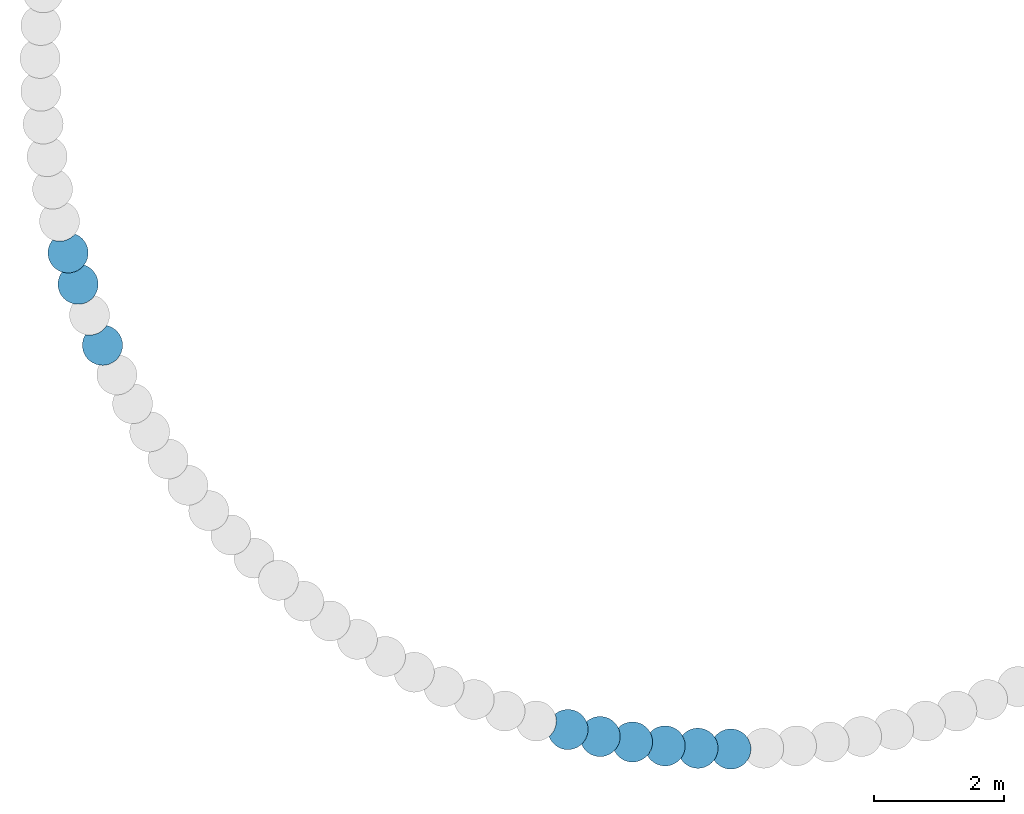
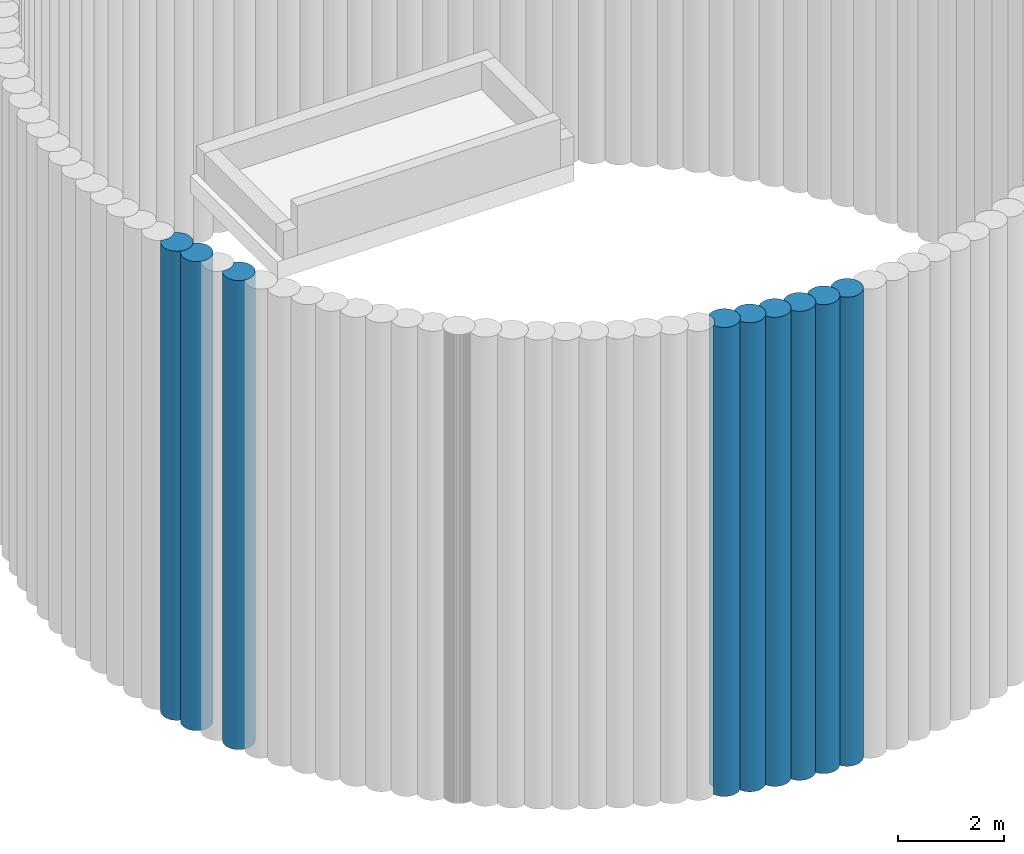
# One storey, part 3 of 16: 9 slabs.
"""IFC2X3 building model written with IfcOpenShell, lengths in centimetres."""

from ifc_helpers import new_model, entity, si_unit, converted_unit, derived_unit, direction, frame, frame_2d, origin, place, context, subcontext, project, spatial, polyline, circle_curve, parameter, trimmed, segment, composite_curve, outline, extrude, material, element, save


model = new_model("IFC2X3")

# Units and contexts
model_context = context("Model", 3, precision=0.001, world=origin(), true_north=direction((6.12303176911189e-17, 1.0)))
body_context = subcontext(model_context, "Body", "Model", "MODEL_VIEW")
ifc_project = project(units=[si_unit("LENGTHUNIT", "METRE", prefix="CENTI"), si_unit("AREAUNIT", "SQUARE_METRE"), si_unit("VOLUMEUNIT", "CUBIC_METRE"), converted_unit("PLANEANGLEUNIT", "DEGREE", entity("IfcRatioMeasure", 0.0174532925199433), si_unit("PLANEANGLEUNIT", "RADIAN"), dimensions=[0, 0, 0, 0, 0, 0, 0]), si_unit("MASSUNIT", "GRAM", prefix="KILO"), derived_unit("MASSDENSITYUNIT", [(si_unit("MASSUNIT", "GRAM", prefix="KILO"), 1), (si_unit("LENGTHUNIT", "METRE"), -3)]), si_unit("TIMEUNIT", "SECOND"), si_unit("FREQUENCYUNIT", "HERTZ"), si_unit("THERMODYNAMICTEMPERATUREUNIT", "DEGREE_CELSIUS"), derived_unit("THERMALTRANSMITTANCEUNIT", [(si_unit("MASSUNIT", "GRAM", prefix="KILO"), 1), (si_unit("THERMODYNAMICTEMPERATUREUNIT", "KELVIN"), -1), (si_unit("TIMEUNIT", "SECOND"), -3)]), derived_unit("VOLUMETRICFLOWRATEUNIT", [(si_unit("LENGTHUNIT", "METRE"), 3), (si_unit("TIMEUNIT", "SECOND"), -1)]), si_unit("ELECTRICCURRENTUNIT", "AMPERE"), si_unit("ELECTRICVOLTAGEUNIT", "VOLT"), si_unit("POWERUNIT", "WATT"), si_unit("FORCEUNIT", "NEWTON", prefix="KILO"), si_unit("ILLUMINANCEUNIT", "LUX"), si_unit("LUMINOUSFLUXUNIT", "LUMEN"), si_unit("LUMINOUSINTENSITYUNIT", "CANDELA"), derived_unit("USERDEFINED", [(si_unit("MASSUNIT", "GRAM", prefix="KILO"), -1), (si_unit("LENGTHUNIT", "METRE"), -2), (si_unit("TIMEUNIT", "SECOND"), 3), (si_unit("LUMINOUSFLUXUNIT", "LUMEN"), 1)]), derived_unit("LINEARVELOCITYUNIT", [(si_unit("LENGTHUNIT", "METRE"), 1), (si_unit("TIMEUNIT", "SECOND"), -1)]), si_unit("PRESSUREUNIT", "PASCAL"), derived_unit("USERDEFINED", [(si_unit("LENGTHUNIT", "METRE"), -2), (si_unit("MASSUNIT", "GRAM", prefix="KILO"), 1), (si_unit("TIMEUNIT", "SECOND"), -2)])], contexts=[model_context])

# Site, building, storey
site_placement = place(None, origin())
site = spatial("IfcSite", under=ifc_project, at=site_placement, Name="Default", CompositionType="ELEMENT")
building_placement = place(site_placement, origin())
building = spatial("IfcBuilding", under=site, at=building_placement, CompositionType="ELEMENT")
storey_placement = place(building_placement, frame((0.0, 0.0, -984.0)))
storey = spatial("IfcBuildingStorey", under=building, at=storey_placement, Name="Niveau Fond de fosse", CompositionType="ELEMENT", Elevation=-984.000000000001)

# Slabs
ifc_material = material(Name="Maçonnerie - Béton coulé sur place")
slab_1_placement = place(storey_placement, origin())
element("IfcSlab", 1, at=slab_1_placement, inside=storey, material=ifc_material, Name="Pieu béton - JBTP:600mm 2", ObjectType="Pieu béton - JBTP:600mm 2", PredefinedType="BASESLAB", context=body_context, shape_type="SweptSolid", body=[
    extrude(outline(composite_curve([segment(trimmed(circle_curve(frame_2d((1.1835464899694, -14.7318661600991), x_axis=(1.0, 0.0)), 30.9999999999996), [parameter(180.0)], [parameter(207.444291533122)], True, "PARAMETER"), True, "CONTINUOUS"), segment(trimmed(circle_curve(frame_2d((-22.2236636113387, -59.7464676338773), x_axis=(0.998867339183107, -0.0475819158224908)), 30.9999999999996), [parameter(30.1715642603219)], [parameter(100.334884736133)], True, "PARAMETER"), False, "CONTINUOUS"), segment(trimmed(circle_curve(frame_2d((1.1835464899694, -14.7318661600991), x_axis=(1.0, 0.0)), 30.9999999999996), [parameter(277.607612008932)], [parameter(4.07110999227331e-13)], True, "PARAMETER"), True, "CONTINUOUS"), segment(polyline([(32.1835464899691, -14.7318661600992), (31.7068413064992, -9.3162892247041)]), True, "CONTINUOUS"), segment(polyline([(31.7068413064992, -9.3162892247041), (30.2921459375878, -4.06934121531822)]), True, "CONTINUOUS"), segment(polyline([(30.2921459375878, -4.06934121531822), (27.9815446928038, 0.850722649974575)]), True, "CONTINUOUS"), segment(polyline([(27.9815446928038, 0.850722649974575), (24.8625540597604, 5.2757474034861)]), True, "CONTINUOUS"), segment(polyline([(24.8625540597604, 5.2757474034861), (21.0196407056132, 9.09100869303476)]), True, "CONTINUOUS"), segment(polyline([(21.0196407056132, 9.09100869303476), (16.5713553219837, 12.1793831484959)]), True, "CONTINUOUS"), segment(polyline([(16.5713553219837, 12.1793831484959), (11.6531207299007, 14.4466878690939)]), True, "CONTINUOUS"), segment(polyline([(11.6531207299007, 14.4466878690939), (6.41465294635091, 15.8235838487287)]), True, "CONTINUOUS"), segment(polyline([(6.41465294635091, 15.8235838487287), (1.01547753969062, 16.2676782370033)]), True, "CONTINUOUS"), segment(polyline([(1.01547753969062, 16.2676782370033), (-4.38028118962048, 15.764656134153)]), True, "CONTINUOUS"), segment(polyline([(-4.38028118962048, 15.764656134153), (-9.56967916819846, 14.3433490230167)]), True, "CONTINUOUS"), segment(polyline([(-9.56967916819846, 14.3433490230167), (-14.4353628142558, 12.0459170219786)]), True, "CONTINUOUS"), segment(polyline([(-14.4353628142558, 12.0459170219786), (-18.8300295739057, 8.94210209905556)]), True, "CONTINUOUS"), segment(polyline([(-18.8300295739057, 8.94210209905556), (-22.6217091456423, 5.12536940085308)]), True, "CONTINUOUS"), segment(polyline([(-22.6217091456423, 5.12536940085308), (-25.6964633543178, 0.710448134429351)]), True, "CONTINUOUS"), segment(polyline([(-25.6964633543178, 0.710448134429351), (-27.9617477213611, -4.17005640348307)]), True, "CONTINUOUS"), segment(polyline([(-27.9617477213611, -4.17005640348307), (-29.3490361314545, -9.36890070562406)]), True, "CONTINUOUS"), segment(polyline([(-29.3490361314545, -9.36890070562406), (-29.8164535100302, -14.731866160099)]), True, "CONTINUOUS")], self_intersect=False)), frame((-237.190563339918, -1031.61347964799, -300.0), z_axis=(0.0, 0.0, 1.0), x_axis=(0.21599738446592, -0.97639394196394, 0.0)), (0.0, 0.0, 1.0), 1084.0),
])
slab_2_placement = place(storey_placement, origin())
element("IfcSlab", 2, at=slab_2_placement, inside=storey, material=ifc_material, Name="Pieu béton - JBTP:600mm 2", ObjectType="Pieu béton - JBTP:600mm 2", PredefinedType="BASESLAB", context=body_context, shape_type="SweptSolid", body=[
    extrude(outline(composite_curve([segment(trimmed(circle_curve(frame_2d((1.18354648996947, -14.731866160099), x_axis=(1.0, 0.0)), 30.9999999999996), [parameter(180.0)], [parameter(207.444291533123)], True, "PARAMETER"), True, "CONTINUOUS"), segment(trimmed(circle_curve(frame_2d((-22.2236636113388, -59.7464676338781), x_axis=(0.998867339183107, -0.0475819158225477)), 30.9999999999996), [parameter(30.1715642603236)], [parameter(100.334884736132)], True, "PARAMETER"), False, "CONTINUOUS"), segment(trimmed(circle_curve(frame_2d((1.18354648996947, -14.731866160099), x_axis=(1.0, 0.0)), 30.9999999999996), [parameter(277.607612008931)], [parameter(4.07110999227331e-13)], True, "PARAMETER"), True, "CONTINUOUS"), segment(polyline([(32.183546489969, -14.731866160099), (31.7068413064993, -9.31628922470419)]), True, "CONTINUOUS"), segment(polyline([(31.7068413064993, -9.31628922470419), (30.2921459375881, -4.06934121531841)]), True, "CONTINUOUS"), segment(polyline([(30.2921459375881, -4.06934121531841), (27.9815446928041, 0.850722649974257)]), True, "CONTINUOUS"), segment(polyline([(27.9815446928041, 0.850722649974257), (24.8625540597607, 5.27574740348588)]), True, "CONTINUOUS"), segment(polyline([(24.8625540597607, 5.27574740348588), (21.0196407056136, 9.09100869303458)]), True, "CONTINUOUS"), segment(polyline([(21.0196407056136, 9.09100869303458), (16.5713553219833, 12.1793831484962)]), True, "CONTINUOUS"), segment(polyline([(16.5713553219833, 12.1793831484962), (11.653120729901, 14.446687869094)]), True, "CONTINUOUS"), segment(polyline([(11.653120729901, 14.446687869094), (6.41465294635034, 15.8235838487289)]), True, "CONTINUOUS"), segment(polyline([(6.41465294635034, 15.8235838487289), (1.01547753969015, 16.2676782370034)]), True, "CONTINUOUS"), segment(polyline([(1.01547753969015, 16.2676782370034), (-4.3802811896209, 15.764656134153)]), True, "CONTINUOUS"), segment(polyline([(-4.3802811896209, 15.764656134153), (-9.5696791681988, 14.3433490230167)]), True, "CONTINUOUS"), segment(polyline([(-9.5696791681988, 14.3433490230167), (-14.4353628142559, 12.0459170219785)]), True, "CONTINUOUS"), segment(polyline([(-14.4353628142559, 12.0459170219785), (-18.8300295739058, 8.94210209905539)]), True, "CONTINUOUS"), segment(polyline([(-18.8300295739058, 8.94210209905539), (-22.6217091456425, 5.12536940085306)]), True, "CONTINUOUS"), segment(polyline([(-22.6217091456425, 5.12536940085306), (-25.6964633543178, 0.710448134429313)]), True, "CONTINUOUS"), segment(polyline([(-25.6964633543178, 0.710448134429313), (-27.9617477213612, -4.17005640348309)]), True, "CONTINUOUS"), segment(polyline([(-27.9617477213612, -4.17005640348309), (-29.3490361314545, -9.36890070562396)]), True, "CONTINUOUS"), segment(polyline([(-29.3490361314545, -9.36890070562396), (-29.81645351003, -14.7318661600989)]), True, "CONTINUOUS")], self_intersect=False)), frame((-187.835761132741, -1041.73099290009, -300.0), z_axis=(0.0, 0.0, 1.0), x_axis=(0.262211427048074, -0.965010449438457, 0.0)), (0.0, 0.0, 1.0), 1084.0),
])
slab_3_placement = place(storey_placement, origin())
element("IfcSlab", 3, at=slab_3_placement, inside=storey, material=ifc_material, Name="Pieu béton - JBTP:600mm 2", ObjectType="Pieu béton - JBTP:600mm 2", PredefinedType="BASESLAB", context=body_context, shape_type="SweptSolid", body=[
    extrude(outline(composite_curve([segment(trimmed(circle_curve(frame_2d((1.1835464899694, -14.7318661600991), x_axis=(1.0, 0.0)), 30.9999999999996), [parameter(180.0)], [parameter(207.444291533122)], True, "PARAMETER"), True, "CONTINUOUS"), segment(trimmed(circle_curve(frame_2d((-22.2236636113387, -59.7464676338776), x_axis=(0.998867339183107, -0.047581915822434)), 30.9999999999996), [parameter(30.1715642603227)], [parameter(100.334884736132)], True, "PARAMETER"), False, "CONTINUOUS"), segment(trimmed(circle_curve(frame_2d((1.1835464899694, -14.7318661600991), x_axis=(1.0, 0.0)), 30.9999999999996), [parameter(277.607612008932)], [parameter(4.07110999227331e-13)], True, "PARAMETER"), True, "CONTINUOUS"), segment(polyline([(32.1835464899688, -14.731866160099), (31.7068413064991, -9.3162892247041)]), True, "CONTINUOUS"), segment(polyline([(31.7068413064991, -9.3162892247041), (30.2921459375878, -4.06934121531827)]), True, "CONTINUOUS"), segment(polyline([(30.2921459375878, -4.06934121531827), (27.9815446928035, 0.850722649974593)]), True, "CONTINUOUS"), segment(polyline([(27.9815446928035, 0.850722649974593), (24.8625540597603, 5.275747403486)]), True, "CONTINUOUS"), segment(polyline([(24.8625540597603, 5.275747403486), (21.0196407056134, 9.09100869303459)]), True, "CONTINUOUS"), segment(polyline([(21.0196407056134, 9.09100869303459), (16.5713553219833, 12.1793831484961)]), True, "CONTINUOUS"), segment(polyline([(16.5713553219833, 12.1793831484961), (11.6531207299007, 14.446687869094)]), True, "CONTINUOUS"), segment(polyline([(11.6531207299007, 14.446687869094), (6.41465294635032, 15.8235838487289)]), True, "CONTINUOUS"), segment(polyline([(6.41465294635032, 15.8235838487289), (1.01547753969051, 16.2676782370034)]), True, "CONTINUOUS"), segment(polyline([(1.01547753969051, 16.2676782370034), (-4.38028118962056, 15.7646561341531)]), True, "CONTINUOUS"), segment(polyline([(-4.38028118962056, 15.7646561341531), (-9.56967916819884, 14.3433490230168)]), True, "CONTINUOUS"), segment(polyline([(-9.56967916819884, 14.3433490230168), (-14.4353628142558, 12.0459170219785)]), True, "CONTINUOUS"), segment(polyline([(-14.4353628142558, 12.0459170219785), (-18.8300295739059, 8.94210209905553)]), True, "CONTINUOUS"), segment(polyline([(-18.8300295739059, 8.94210209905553), (-22.6217091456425, 5.12536940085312)]), True, "CONTINUOUS"), segment(polyline([(-22.6217091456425, 5.12536940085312), (-25.696463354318, 0.710448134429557)]), True, "CONTINUOUS"), segment(polyline([(-25.696463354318, 0.710448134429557), (-27.9617477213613, -4.17005640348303)]), True, "CONTINUOUS"), segment(polyline([(-27.9617477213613, -4.17005640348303), (-29.3490361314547, -9.36890070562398)]), True, "CONTINUOUS"), segment(polyline([(-29.3490361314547, -9.36890070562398), (-29.8164535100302, -14.731866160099)]), True, "CONTINUOUS")], self_intersect=False)), frame((-138.055450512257, -1049.48865039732, -300.0), z_axis=(0.0, 0.0, 1.0), x_axis=(0.307831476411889, -0.951440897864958, 0.0)), (0.0, 0.0, 1.0), 1084.0),
])
slab_4_placement = place(storey_placement, origin())
element("IfcSlab", 4, at=slab_4_placement, inside=storey, material=ifc_material, Name="Pieu béton - JBTP:600mm 2", ObjectType="Pieu béton - JBTP:600mm 2", PredefinedType="BASESLAB", context=body_context, shape_type="SweptSolid", body=[
    extrude(outline(composite_curve([segment(trimmed(circle_curve(frame_2d((1.18354648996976, -14.7318661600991), x_axis=(1.0, 0.0)), 30.9999999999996), [parameter(180.0)], [parameter(207.444291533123)], True, "PARAMETER"), True, "CONTINUOUS"), segment(trimmed(circle_curve(frame_2d((-22.2236636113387, -59.746467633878), x_axis=(0.998867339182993, -0.0475819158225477)), 30.9999999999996), [parameter(30.1715642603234)], [parameter(100.334884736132)], True, "PARAMETER"), False, "CONTINUOUS"), segment(trimmed(circle_curve(frame_2d((1.18354648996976, -14.7318661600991), x_axis=(1.0, 0.0)), 30.9999999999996), [parameter(277.607612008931)], [parameter(4.07110999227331e-13)], True, "PARAMETER"), True, "CONTINUOUS"), segment(polyline([(32.1835464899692, -14.731866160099), (31.7068413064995, -9.31628922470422)]), True, "CONTINUOUS"), segment(polyline([(31.7068413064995, -9.31628922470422), (30.2921459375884, -4.06934121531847)]), True, "CONTINUOUS"), segment(polyline([(30.2921459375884, -4.06934121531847), (27.9815446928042, 0.850722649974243)]), True, "CONTINUOUS"), segment(polyline([(27.9815446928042, 0.850722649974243), (24.8625540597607, 5.275747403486)]), True, "CONTINUOUS"), segment(polyline([(24.8625540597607, 5.275747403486), (21.0196407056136, 9.09100869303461)]), True, "CONTINUOUS"), segment(polyline([(21.0196407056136, 9.09100869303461), (16.5713553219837, 12.1793831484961)]), True, "CONTINUOUS"), segment(polyline([(16.5713553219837, 12.1793831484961), (11.6531207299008, 14.4466878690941)]), True, "CONTINUOUS"), segment(polyline([(11.6531207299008, 14.4466878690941), (6.41465294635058, 15.8235838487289)]), True, "CONTINUOUS"), segment(polyline([(6.41465294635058, 15.8235838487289), (1.0154775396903, 16.2676782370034)]), True, "CONTINUOUS"), segment(polyline([(1.0154775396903, 16.2676782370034), (-4.38028118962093, 15.764656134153)]), True, "CONTINUOUS"), segment(polyline([(-4.38028118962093, 15.764656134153), (-9.56967916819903, 14.3433490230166)]), True, "CONTINUOUS"), segment(polyline([(-9.56967916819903, 14.3433490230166), (-14.4353628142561, 12.0459170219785)]), True, "CONTINUOUS"), segment(polyline([(-14.4353628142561, 12.0459170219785), (-18.8300295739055, 8.94210209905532)]), True, "CONTINUOUS"), segment(polyline([(-18.8300295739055, 8.94210209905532), (-22.6217091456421, 5.12536940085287)]), True, "CONTINUOUS"), segment(polyline([(-22.6217091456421, 5.12536940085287), (-25.6964633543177, 0.710448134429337)]), True, "CONTINUOUS"), segment(polyline([(-25.6964633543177, 0.710448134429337), (-27.961747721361, -4.17005640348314)]), True, "CONTINUOUS"), segment(polyline([(-27.961747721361, -4.17005640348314), (-29.3490361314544, -9.36890070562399)]), True, "CONTINUOUS"), segment(polyline([(-29.3490361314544, -9.36890070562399), (-29.8164535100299, -14.7318661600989)]), True, "CONTINUOUS")], self_intersect=False)), frame((-87.9623998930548, -1054.86887855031, -300.0), z_axis=(0.0, 0.0, 1.0), x_axis=(0.352754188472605, -0.935716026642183, 0.0)), (0.0, 0.0, 1.0), 1084.0),
])
slab_5_placement = place(storey_placement, origin())
element("IfcSlab", 5, at=slab_5_placement, inside=storey, material=ifc_material, Name="Pieu béton - JBTP:600mm 2", ObjectType="Pieu béton - JBTP:600mm 2", PredefinedType="BASESLAB", context=body_context, shape_type="SweptSolid", body=[
    extrude(outline(composite_curve([segment(trimmed(circle_curve(frame_2d((1.18354648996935, -14.731866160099), x_axis=(1.0, 0.0)), 30.9999999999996), [parameter(180.0)], [parameter(207.444291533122)], True, "PARAMETER"), True, "CONTINUOUS"), segment(trimmed(circle_curve(frame_2d((-22.2236636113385, -59.7464676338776), x_axis=(0.998867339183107, -0.0475819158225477)), 30.9999999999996), [parameter(30.1715642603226)], [parameter(100.334884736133)], True, "PARAMETER"), False, "CONTINUOUS"), segment(trimmed(circle_curve(frame_2d((1.18354648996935, -14.731866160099), x_axis=(1.0, 0.0)), 30.9999999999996), [parameter(277.607612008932)], [parameter(4.07110999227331e-13)], True, "PARAMETER"), True, "CONTINUOUS"), segment(polyline([(32.1835464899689, -14.731866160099), (31.7068413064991, -9.31628922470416)]), True, "CONTINUOUS"), segment(polyline([(31.7068413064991, -9.31628922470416), (30.2921459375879, -4.06934121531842)]), True, "CONTINUOUS"), segment(polyline([(30.2921459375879, -4.06934121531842), (27.9815446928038, 0.850722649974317)]), True, "CONTINUOUS"), segment(polyline([(27.9815446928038, 0.850722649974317), (24.8625540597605, 5.2757474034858)]), True, "CONTINUOUS"), segment(polyline([(24.8625540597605, 5.2757474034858), (21.0196407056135, 9.09100869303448)]), True, "CONTINUOUS"), segment(polyline([(21.0196407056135, 9.09100869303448), (16.5713553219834, 12.1793831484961)]), True, "CONTINUOUS"), segment(polyline([(16.5713553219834, 12.1793831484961), (11.6531207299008, 14.446687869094)]), True, "CONTINUOUS"), segment(polyline([(11.6531207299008, 14.446687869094), (6.41465294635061, 15.8235838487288)]), True, "CONTINUOUS"), segment(polyline([(6.41465294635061, 15.8235838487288), (1.01547753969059, 16.2676782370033)]), True, "CONTINUOUS"), segment(polyline([(1.01547753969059, 16.2676782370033), (-4.38028118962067, 15.7646561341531)]), True, "CONTINUOUS"), segment(polyline([(-4.38028118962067, 15.7646561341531), (-9.56967916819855, 14.3433490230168)]), True, "CONTINUOUS"), segment(polyline([(-9.56967916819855, 14.3433490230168), (-14.4353628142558, 12.0459170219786)]), True, "CONTINUOUS"), segment(polyline([(-14.4353628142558, 12.0459170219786), (-18.8300295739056, 8.94210209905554)]), True, "CONTINUOUS"), segment(polyline([(-18.8300295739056, 8.94210209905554), (-22.6217091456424, 5.12536940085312)]), True, "CONTINUOUS"), segment(polyline([(-22.6217091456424, 5.12536940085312), (-25.6964633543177, 0.710448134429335)]), True, "CONTINUOUS"), segment(polyline([(-25.6964633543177, 0.710448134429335), (-27.9617477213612, -4.17005640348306)]), True, "CONTINUOUS"), segment(polyline([(-27.9617477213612, -4.17005640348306), (-29.3490361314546, -9.36890070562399)]), True, "CONTINUOUS"), segment(polyline([(-29.3490361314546, -9.36890070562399), (-29.8164535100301, -14.731866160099)]), True, "CONTINUOUS")], self_intersect=False)), frame((-37.6700861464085, -1057.85948941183, -300.0), z_axis=(0.0, 0.0, 1.0), x_axis=(0.396877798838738, -0.917871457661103, 0.0)), (0.0, 0.0, 1.0), 1084.0),
])
slab_6_placement = place(storey_placement, origin())
element("IfcSlab", 6, at=slab_6_placement, inside=storey, material=ifc_material, Name="Pieu béton - JBTP:600mm 2", ObjectType="Pieu béton - JBTP:600mm 2", PredefinedType="BASESLAB", context=body_context, shape_type="SweptSolid", body=[
    extrude(outline(composite_curve([segment(trimmed(circle_curve(frame_2d((1.18354648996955, -14.731866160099), x_axis=(1.0, 0.0)), 30.9999999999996), [parameter(180.0)], [parameter(207.444291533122)], True, "PARAMETER"), True, "CONTINUOUS"), segment(trimmed(circle_curve(frame_2d((-22.2236636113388, -59.7464676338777), x_axis=(0.998867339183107, -0.0475819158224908)), 30.9999999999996), [parameter(30.1715642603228)], [parameter(100.334884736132)], True, "PARAMETER"), False, "CONTINUOUS"), segment(trimmed(circle_curve(frame_2d((1.18354648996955, -14.731866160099), x_axis=(1.0, 0.0)), 30.9999999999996), [parameter(277.607612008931)], [parameter(4.07110999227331e-13)], True, "PARAMETER"), True, "CONTINUOUS"), segment(polyline([(32.183546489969, -14.731866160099), (31.7068413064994, -9.31628922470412)]), True, "CONTINUOUS"), segment(polyline([(31.7068413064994, -9.31628922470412), (30.2921459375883, -4.0693412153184)]), True, "CONTINUOUS"), segment(polyline([(30.2921459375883, -4.0693412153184), (27.981544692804, 0.850722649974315)]), True, "CONTINUOUS"), segment(polyline([(27.981544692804, 0.850722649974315), (24.8625540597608, 5.27574740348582)]), True, "CONTINUOUS"), segment(polyline([(24.8625540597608, 5.27574740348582), (21.0196407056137, 9.09100869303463)]), True, "CONTINUOUS"), segment(polyline([(21.0196407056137, 9.09100869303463), (16.5713553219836, 12.1793831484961)]), True, "CONTINUOUS"), segment(polyline([(16.5713553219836, 12.1793831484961), (11.653120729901, 14.446687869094)]), True, "CONTINUOUS"), segment(polyline([(11.653120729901, 14.446687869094), (6.41465294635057, 15.8235838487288)]), True, "CONTINUOUS"), segment(polyline([(6.41465294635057, 15.8235838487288), (1.01547753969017, 16.2676782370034)]), True, "CONTINUOUS"), segment(polyline([(1.01547753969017, 16.2676782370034), (-4.38028118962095, 15.764656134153)]), True, "CONTINUOUS"), segment(polyline([(-4.38028118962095, 15.764656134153), (-9.56967916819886, 14.3433490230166)]), True, "CONTINUOUS"), segment(polyline([(-9.56967916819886, 14.3433490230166), (-14.435362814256, 12.0459170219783)]), True, "CONTINUOUS"), segment(polyline([(-14.435362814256, 12.0459170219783), (-18.8300295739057, 8.94210209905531)]), True, "CONTINUOUS"), segment(polyline([(-18.8300295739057, 8.94210209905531), (-22.6217091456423, 5.12536940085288)]), True, "CONTINUOUS"), segment(polyline([(-22.6217091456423, 5.12536940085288), (-25.6964633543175, 0.710448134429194)]), True, "CONTINUOUS"), segment(polyline([(-25.6964633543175, 0.710448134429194), (-27.961747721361, -4.17005640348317)]), True, "CONTINUOUS"), segment(polyline([(-27.961747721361, -4.17005640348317), (-29.3490361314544, -9.36890070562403)]), True, "CONTINUOUS"), segment(polyline([(-29.3490361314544, -9.36890070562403), (-29.8164535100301, -14.7318661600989)]), True, "CONTINUOUS")], self_intersect=False)), frame((12.7075624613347, -1058.4537082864, -300.0), z_axis=(0.0, 0.0, 1.0), x_axis=(0.440102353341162, -0.897947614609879, 0.0)), (0.0, 0.0, 1.0), 1084.0),
])
slab_7_placement = place(storey_placement, origin())
element("IfcSlab", 7, at=slab_7_placement, inside=storey, material=ifc_material, Name="Pieu béton - JBTP:600mm 2", ObjectType="Pieu béton - JBTP:600mm 2", PredefinedType="BASESLAB", context=body_context, shape_type="SweptSolid", body=[
    extrude(outline(composite_curve([segment(trimmed(circle_curve(frame_2d((1.18354648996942, -14.7318661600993), x_axis=(1.0, 0.0)), 30.9999999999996), [parameter(180.0)], [parameter(207.444291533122)], True, "PARAMETER"), True, "CONTINUOUS"), segment(trimmed(circle_curve(frame_2d((-22.2236636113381, -59.7464676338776), x_axis=(0.998867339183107, -0.047581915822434)), 30.9999999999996), [parameter(30.1715642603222)], [parameter(100.334884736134)], True, "PARAMETER"), False, "CONTINUOUS"), segment(trimmed(circle_curve(frame_2d((1.18354648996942, -14.7318661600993), x_axis=(1.0, 0.0)), 30.9999999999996), [parameter(277.607612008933)], [parameter(4.07110999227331e-13)], True, "PARAMETER"), True, "CONTINUOUS"), segment(polyline([(32.183546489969, -14.7318661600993), (31.706841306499, -9.31628922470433)]), True, "CONTINUOUS"), segment(polyline([(31.706841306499, -9.31628922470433), (30.292145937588, -4.06934121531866)]), True, "CONTINUOUS"), segment(polyline([(30.292145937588, -4.06934121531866), (27.9815446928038, 0.850722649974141)]), True, "CONTINUOUS"), segment(polyline([(27.9815446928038, 0.850722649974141), (24.8625540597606, 5.27574740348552)]), True, "CONTINUOUS"), segment(polyline([(24.8625540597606, 5.27574740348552), (21.0196407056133, 9.09100869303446)]), True, "CONTINUOUS"), segment(polyline([(21.0196407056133, 9.09100869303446), (16.5713553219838, 12.1793831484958)]), True, "CONTINUOUS"), segment(polyline([(16.5713553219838, 12.1793831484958), (11.6531207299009, 14.4466878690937)]), True, "CONTINUOUS"), segment(polyline([(11.6531207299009, 14.4466878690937), (6.41465294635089, 15.8235838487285)]), True, "CONTINUOUS"), segment(polyline([(6.41465294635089, 15.8235838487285), (1.01547753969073, 16.2676782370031)]), True, "CONTINUOUS"), segment(polyline([(1.01547753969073, 16.2676782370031), (-4.3802811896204, 15.7646561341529)]), True, "CONTINUOUS"), segment(polyline([(-4.3802811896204, 15.7646561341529), (-9.56967916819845, 14.3433490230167)]), True, "CONTINUOUS"), segment(polyline([(-9.56967916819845, 14.3433490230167), (-14.4353628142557, 12.0459170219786)]), True, "CONTINUOUS"), segment(polyline([(-14.4353628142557, 12.0459170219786), (-18.8300295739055, 8.94210209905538)]), True, "CONTINUOUS"), segment(polyline([(-18.8300295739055, 8.94210209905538), (-22.6217091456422, 5.12536940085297)]), True, "CONTINUOUS"), segment(polyline([(-22.6217091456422, 5.12536940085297), (-25.6964633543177, 0.710448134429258)]), True, "CONTINUOUS"), segment(polyline([(-25.6964633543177, 0.710448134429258), (-27.9617477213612, -4.1700564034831)]), True, "CONTINUOUS"), segment(polyline([(-27.9617477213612, -4.1700564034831), (-29.3490361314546, -9.36890070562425)]), True, "CONTINUOUS"), segment(polyline([(-29.3490361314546, -9.36890070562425), (-29.8164535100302, -14.7318661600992)]), True, "CONTINUOUS")], self_intersect=False)), frame((-1011.99876197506, -310.393686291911, -300.0), z_axis=(0.0, 0.0, 1.0), x_axis=(-0.737583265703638, -0.675256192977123, 0.0)), (0.0, 0.0, 1.0), 1084.0),
])
slab_8_placement = place(storey_placement, origin())
element("IfcSlab", 8, at=slab_8_placement, inside=storey, material=ifc_material, Name="Pieu béton - JBTP:600mm 2", ObjectType="Pieu béton - JBTP:600mm 2", PredefinedType="BASESLAB", context=body_context, shape_type="SweptSolid", body=[
    extrude(outline(composite_curve([segment(trimmed(circle_curve(frame_2d((1.18354648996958, -14.731866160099), x_axis=(1.0, 0.0)), 30.9999999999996), [parameter(180.0)], [parameter(207.444291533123)], True, "PARAMETER"), True, "CONTINUOUS"), segment(trimmed(circle_curve(frame_2d((-22.223663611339, -59.7464676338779), x_axis=(0.998867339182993, -0.047581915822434)), 30.9999999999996), [parameter(30.1715642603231)], [parameter(100.334884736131)], True, "PARAMETER"), False, "CONTINUOUS"), segment(trimmed(circle_curve(frame_2d((1.18354648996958, -14.731866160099), x_axis=(1.0, 0.0)), 30.9999999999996), [parameter(277.607612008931)], [parameter(4.07110999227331e-13)], True, "PARAMETER"), True, "CONTINUOUS"), segment(polyline([(32.1835464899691, -14.731866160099), (31.7068413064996, -9.3162892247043)]), True, "CONTINUOUS"), segment(polyline([(31.7068413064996, -9.3162892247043), (30.2921459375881, -4.06934121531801)]), True, "CONTINUOUS"), segment(polyline([(30.2921459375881, -4.06934121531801), (27.9815446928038, 0.850722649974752)]), True, "CONTINUOUS"), segment(polyline([(27.9815446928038, 0.850722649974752), (24.8625540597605, 5.27574740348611)]), True, "CONTINUOUS"), segment(polyline([(24.8625540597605, 5.27574740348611), (21.0196407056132, 9.09100869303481)]), True, "CONTINUOUS"), segment(polyline([(21.0196407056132, 9.09100869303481), (16.5713553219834, 12.1793831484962)]), True, "CONTINUOUS"), segment(polyline([(16.5713553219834, 12.1793831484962), (11.6531207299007, 14.4466878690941)]), True, "CONTINUOUS"), segment(polyline([(11.6531207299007, 14.4466878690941), (6.41465294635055, 15.8235838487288)]), True, "CONTINUOUS"), segment(polyline([(6.41465294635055, 15.8235838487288), (1.01547753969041, 16.2676782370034)]), True, "CONTINUOUS"), segment(polyline([(1.01547753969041, 16.2676782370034), (-4.38028118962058, 15.764656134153)]), True, "CONTINUOUS"), segment(polyline([(-4.38028118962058, 15.764656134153), (-9.56967916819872, 14.3433490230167)]), True, "CONTINUOUS"), segment(polyline([(-9.56967916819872, 14.3433490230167), (-14.4353628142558, 12.0459170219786)]), True, "CONTINUOUS"), segment(polyline([(-14.4353628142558, 12.0459170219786), (-18.8300295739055, 8.94210209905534)]), True, "CONTINUOUS"), segment(polyline([(-18.8300295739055, 8.94210209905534), (-22.6217091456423, 5.12536940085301)]), True, "CONTINUOUS"), segment(polyline([(-22.6217091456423, 5.12536940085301), (-25.6964633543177, 0.710448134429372)]), True, "CONTINUOUS"), segment(polyline([(-25.6964633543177, 0.710448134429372), (-27.9617477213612, -4.17005640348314)]), True, "CONTINUOUS"), segment(polyline([(-27.9617477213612, -4.17005640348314), (-29.3490361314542, -9.36890070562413)]), True, "CONTINUOUS"), segment(polyline([(-29.3490361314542, -9.36890070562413), (-29.8164535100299, -14.731866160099)]), True, "CONTINUOUS")], self_intersect=False)), frame((-996.083384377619, -358.194955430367, -300.0), z_axis=(0.0, 0.0, 1.0), x_axis=(-0.704617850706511, -0.709586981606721, 0.0)), (0.0, 0.0, 1.0), 1084.0),
])
slab_9_placement = place(storey_placement, origin())
element("IfcSlab", 9, at=slab_9_placement, inside=storey, material=ifc_material, Name="Pieu béton - JBTP:600mm 2", ObjectType="Pieu béton - JBTP:600mm 2", PredefinedType="BASESLAB", context=body_context, shape_type="SweptSolid", body=[
    extrude(outline(composite_curve([segment(trimmed(circle_curve(frame_2d((1.18354648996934, -14.7318661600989), x_axis=(1.0, 0.0)), 30.9999999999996), [parameter(180.0)], [parameter(207.444291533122)], True, "PARAMETER"), True, "CONTINUOUS"), segment(trimmed(circle_curve(frame_2d((-22.2236636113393, -59.7464676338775), x_axis=(0.998867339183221, -0.0475819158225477)), 30.9999999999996), [parameter(30.1715642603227)], [parameter(100.334884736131)], True, "PARAMETER"), False, "CONTINUOUS"), segment(trimmed(circle_curve(frame_2d((1.18354648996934, -14.7318661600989), x_axis=(1.0, 0.0)), 30.9999999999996), [parameter(277.607612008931)], [parameter(4.07110999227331e-13)], True, "PARAMETER"), True, "CONTINUOUS"), segment(polyline([(32.1835464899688, -14.7318661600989), (31.706841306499, -9.31628922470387)]), True, "CONTINUOUS"), segment(polyline([(31.706841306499, -9.31628922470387), (30.2921459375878, -4.06934121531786)]), True, "CONTINUOUS"), segment(polyline([(30.2921459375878, -4.06934121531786), (27.9815446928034, 0.850722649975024)]), True, "CONTINUOUS"), segment(polyline([(27.9815446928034, 0.850722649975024), (24.86255405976, 5.27574740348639)]), True, "CONTINUOUS"), segment(polyline([(24.86255405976, 5.27574740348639), (21.0196407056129, 9.09100869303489)]), True, "CONTINUOUS"), segment(polyline([(21.0196407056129, 9.09100869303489), (16.5713553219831, 12.1793831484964)]), True, "CONTINUOUS"), segment(polyline([(16.5713553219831, 12.1793831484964), (11.6531207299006, 14.4466878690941)]), True, "CONTINUOUS"), segment(polyline([(11.6531207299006, 14.4466878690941), (6.41465294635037, 15.823583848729)]), True, "CONTINUOUS"), segment(polyline([(6.41465294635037, 15.823583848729), (1.01547753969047, 16.2676782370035)]), True, "CONTINUOUS"), segment(polyline([(1.01547753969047, 16.2676782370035), (-4.38028118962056, 15.7646561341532)]), True, "CONTINUOUS"), segment(polyline([(-4.38028118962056, 15.7646561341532), (-9.56967916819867, 14.3433490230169)]), True, "CONTINUOUS"), segment(polyline([(-9.56967916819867, 14.3433490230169), (-14.4353628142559, 12.0459170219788)]), True, "CONTINUOUS"), segment(polyline([(-14.4353628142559, 12.0459170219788), (-18.8300295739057, 8.94210209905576)]), True, "CONTINUOUS"), segment(polyline([(-18.8300295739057, 8.94210209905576), (-22.6217091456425, 5.1253694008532)]), True, "CONTINUOUS"), segment(polyline([(-22.6217091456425, 5.1253694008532), (-25.6964633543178, 0.710448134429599)]), True, "CONTINUOUS"), segment(polyline([(-25.6964633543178, 0.710448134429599), (-27.9617477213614, -4.17005640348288)]), True, "CONTINUOUS"), segment(polyline([(-27.9617477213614, -4.17005640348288), (-29.3490361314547, -9.36890070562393)]), True, "CONTINUOUS"), segment(polyline([(-29.3490361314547, -9.36890070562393), (-29.8164535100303, -14.7318661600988)]), True, "CONTINUOUS")], self_intersect=False)), frame((-957.524446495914, -451.256766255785, -300.0), z_axis=(0.0, 0.0, 1.0), x_axis=(-0.633976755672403, -0.773352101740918, 0.0)), (0.0, 0.0, 1.0), 1084.0),
])

save(model, "model.ifc")
